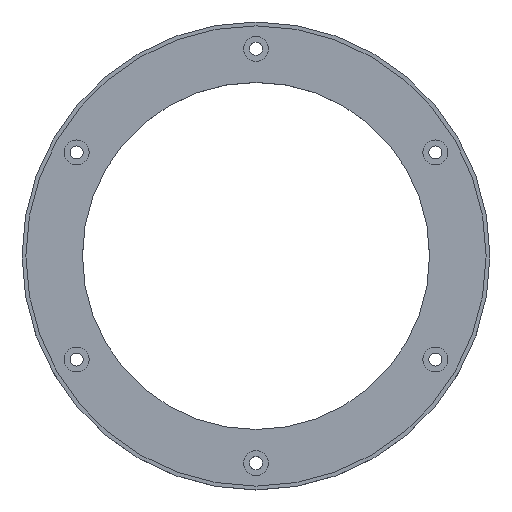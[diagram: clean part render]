
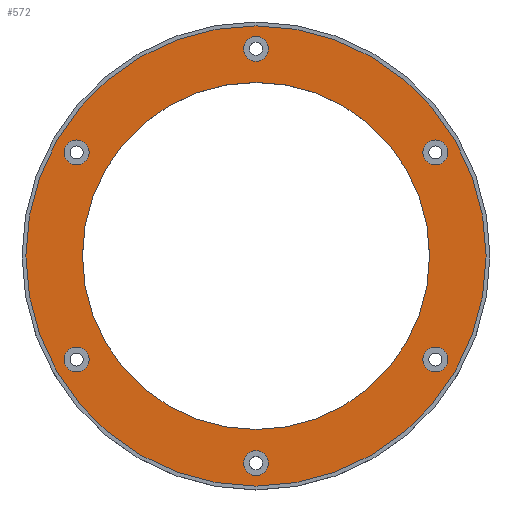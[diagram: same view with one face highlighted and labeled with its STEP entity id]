
A CAD part, top view. The second image highlights one B-rep face of the part: STEP entity #572.
In plain terms, the highlighted planar face has unit normal (0, 0, 1).
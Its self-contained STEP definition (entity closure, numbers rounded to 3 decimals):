
#152=FACE_BOUND('',#221,.T.);
#153=FACE_BOUND('',#222,.T.);
#154=FACE_BOUND('',#223,.T.);
#155=FACE_BOUND('',#224,.T.);
#156=FACE_BOUND('',#225,.T.);
#157=FACE_BOUND('',#226,.T.);
#158=FACE_BOUND('',#227,.T.);
#188=FACE_OUTER_BOUND('',#220,.T.);
#220=EDGE_LOOP('',(#498,#499));
#221=EDGE_LOOP('',(#500,#501));
#222=EDGE_LOOP('',(#502,#503));
#223=EDGE_LOOP('',(#504,#505));
#224=EDGE_LOOP('',(#506,#507));
#225=EDGE_LOOP('',(#508,#509));
#226=EDGE_LOOP('',(#510,#511));
#227=EDGE_LOOP('',(#512));
#245=CIRCLE('',#651,3.25);
#246=CIRCLE('',#652,3.25);
#251=CIRCLE('',#660,3.25);
#252=CIRCLE('',#661,3.25);
#257=CIRCLE('',#669,3.25);
#258=CIRCLE('',#670,3.25);
#263=CIRCLE('',#678,3.25);
#264=CIRCLE('',#679,3.25);
#269=CIRCLE('',#687,3.25);
#270=CIRCLE('',#688,3.25);
#275=CIRCLE('',#696,3.25);
#276=CIRCLE('',#697,3.25);
#279=CIRCLE('',#702,45.25);
#282=CIRCLE('',#706,60.);
#283=CIRCLE('',#707,60.);
#297=VERTEX_POINT('',#997);
#298=VERTEX_POINT('',#998);
#303=VERTEX_POINT('',#1014);
#304=VERTEX_POINT('',#1015);
#309=VERTEX_POINT('',#1031);
#310=VERTEX_POINT('',#1032);
#315=VERTEX_POINT('',#1048);
#316=VERTEX_POINT('',#1049);
#321=VERTEX_POINT('',#1065);
#322=VERTEX_POINT('',#1066);
#327=VERTEX_POINT('',#1082);
#328=VERTEX_POINT('',#1083);
#331=VERTEX_POINT('',#1094);
#334=VERTEX_POINT('',#1102);
#335=VERTEX_POINT('',#1104);
#347=EDGE_CURVE('',#297,#298,#245,.T.);
#348=EDGE_CURVE('',#298,#297,#246,.T.);
#355=EDGE_CURVE('',#303,#304,#251,.T.);
#356=EDGE_CURVE('',#304,#303,#252,.T.);
#363=EDGE_CURVE('',#309,#310,#257,.T.);
#364=EDGE_CURVE('',#310,#309,#258,.T.);
#371=EDGE_CURVE('',#315,#316,#263,.T.);
#372=EDGE_CURVE('',#316,#315,#264,.T.);
#379=EDGE_CURVE('',#321,#322,#269,.T.);
#380=EDGE_CURVE('',#322,#321,#270,.T.);
#387=EDGE_CURVE('',#327,#328,#275,.T.);
#388=EDGE_CURVE('',#328,#327,#276,.T.);
#394=EDGE_CURVE('',#331,#331,#279,.T.);
#398=EDGE_CURVE('',#335,#334,#282,.T.);
#399=EDGE_CURVE('',#334,#335,#283,.T.);
#498=ORIENTED_EDGE('',*,*,#398,.T.);
#499=ORIENTED_EDGE('',*,*,#399,.T.);
#500=ORIENTED_EDGE('',*,*,#347,.T.);
#501=ORIENTED_EDGE('',*,*,#348,.T.);
#502=ORIENTED_EDGE('',*,*,#355,.T.);
#503=ORIENTED_EDGE('',*,*,#356,.T.);
#504=ORIENTED_EDGE('',*,*,#363,.T.);
#505=ORIENTED_EDGE('',*,*,#364,.T.);
#506=ORIENTED_EDGE('',*,*,#371,.T.);
#507=ORIENTED_EDGE('',*,*,#372,.T.);
#508=ORIENTED_EDGE('',*,*,#379,.T.);
#509=ORIENTED_EDGE('',*,*,#380,.T.);
#510=ORIENTED_EDGE('',*,*,#387,.T.);
#511=ORIENTED_EDGE('',*,*,#388,.T.);
#512=ORIENTED_EDGE('',*,*,#394,.T.);
#548=PLANE('',#708);
#572=ADVANCED_FACE('',(#188,#152,#153,#154,#155,#156,#157,#158),#548,.T.);
#651=AXIS2_PLACEMENT_3D('',#999,#767,#768);
#652=AXIS2_PLACEMENT_3D('',#1000,#769,#770);
#660=AXIS2_PLACEMENT_3D('',#1016,#787,#788);
#661=AXIS2_PLACEMENT_3D('',#1017,#789,#790);
#669=AXIS2_PLACEMENT_3D('',#1033,#807,#808);
#670=AXIS2_PLACEMENT_3D('',#1034,#809,#810);
#678=AXIS2_PLACEMENT_3D('',#1050,#827,#828);
#679=AXIS2_PLACEMENT_3D('',#1051,#829,#830);
#687=AXIS2_PLACEMENT_3D('',#1067,#847,#848);
#688=AXIS2_PLACEMENT_3D('',#1068,#849,#850);
#696=AXIS2_PLACEMENT_3D('',#1084,#867,#868);
#697=AXIS2_PLACEMENT_3D('',#1085,#869,#870);
#702=AXIS2_PLACEMENT_3D('',#1096,#882,#883);
#706=AXIS2_PLACEMENT_3D('',#1105,#891,#892);
#707=AXIS2_PLACEMENT_3D('',#1106,#893,#894);
#708=AXIS2_PLACEMENT_3D('',#1107,#895,#896);
#767=DIRECTION('center_axis',(0.,0.,-1.));
#768=DIRECTION('ref_axis',(1.,0.,0.));
#769=DIRECTION('center_axis',(0.,0.,-1.));
#770=DIRECTION('ref_axis',(1.,0.,0.));
#787=DIRECTION('center_axis',(0.,0.,-1.));
#788=DIRECTION('ref_axis',(1.,0.,0.));
#789=DIRECTION('center_axis',(0.,0.,-1.));
#790=DIRECTION('ref_axis',(1.,0.,0.));
#807=DIRECTION('center_axis',(0.,0.,-1.));
#808=DIRECTION('ref_axis',(1.,0.,0.));
#809=DIRECTION('center_axis',(0.,0.,-1.));
#810=DIRECTION('ref_axis',(1.,0.,0.));
#827=DIRECTION('center_axis',(0.,0.,-1.));
#828=DIRECTION('ref_axis',(1.,0.,0.));
#829=DIRECTION('center_axis',(0.,0.,-1.));
#830=DIRECTION('ref_axis',(1.,0.,0.));
#847=DIRECTION('center_axis',(0.,0.,-1.));
#848=DIRECTION('ref_axis',(1.,0.,0.));
#849=DIRECTION('center_axis',(0.,0.,-1.));
#850=DIRECTION('ref_axis',(1.,0.,0.));
#867=DIRECTION('center_axis',(0.,0.,-1.));
#868=DIRECTION('ref_axis',(1.,0.,0.));
#869=DIRECTION('center_axis',(0.,0.,-1.));
#870=DIRECTION('ref_axis',(1.,0.,0.));
#882=DIRECTION('center_axis',(0.,0.,-1.));
#883=DIRECTION('ref_axis',(-1.,0.,0.));
#891=DIRECTION('center_axis',(0.,0.,1.));
#892=DIRECTION('ref_axis',(1.,0.,0.));
#893=DIRECTION('center_axis',(0.,0.,1.));
#894=DIRECTION('ref_axis',(1.,0.,0.));
#895=DIRECTION('center_axis',(0.,0.,1.));
#896=DIRECTION('ref_axis',(1.,0.,0.));
#997=CARTESIAN_POINT('',(-43.515,-27.,0.));
#998=CARTESIAN_POINT('',(-50.015,-27.,0.));
#999=CARTESIAN_POINT('Origin',(-46.765,-27.,0.));
#1000=CARTESIAN_POINT('Origin',(-46.765,-27.,0.));
#1014=CARTESIAN_POINT('',(50.015,-27.,0.));
#1015=CARTESIAN_POINT('',(43.515,-27.,0.));
#1016=CARTESIAN_POINT('Origin',(46.765,-27.,0.));
#1017=CARTESIAN_POINT('Origin',(46.765,-27.,0.));
#1031=CARTESIAN_POINT('',(3.25,54.,0.));
#1032=CARTESIAN_POINT('',(-3.25,54.,0.));
#1033=CARTESIAN_POINT('Origin',(0.,54.,0.));
#1034=CARTESIAN_POINT('Origin',(0.,54.,0.));
#1048=CARTESIAN_POINT('',(50.015,27.,0.));
#1049=CARTESIAN_POINT('',(43.515,27.,0.));
#1050=CARTESIAN_POINT('Origin',(46.765,27.,0.));
#1051=CARTESIAN_POINT('Origin',(46.765,27.,0.));
#1065=CARTESIAN_POINT('',(3.25,-54.,0.));
#1066=CARTESIAN_POINT('',(-3.25,-54.,0.));
#1067=CARTESIAN_POINT('Origin',(0.,-54.,0.));
#1068=CARTESIAN_POINT('Origin',(0.,-54.,0.));
#1082=CARTESIAN_POINT('',(-43.515,27.,0.));
#1083=CARTESIAN_POINT('',(-50.015,27.,0.));
#1084=CARTESIAN_POINT('Origin',(-46.765,27.,0.));
#1085=CARTESIAN_POINT('Origin',(-46.765,27.,0.));
#1094=CARTESIAN_POINT('',(45.25,0.,0.));
#1096=CARTESIAN_POINT('Origin',(0.,0.,0.));
#1102=CARTESIAN_POINT('',(-60.,0.,0.));
#1104=CARTESIAN_POINT('',(60.,0.,0.));
#1105=CARTESIAN_POINT('Origin',(0.,0.,0.));
#1106=CARTESIAN_POINT('Origin',(0.,0.,0.));
#1107=CARTESIAN_POINT('Origin',(0.,0.,0.));
